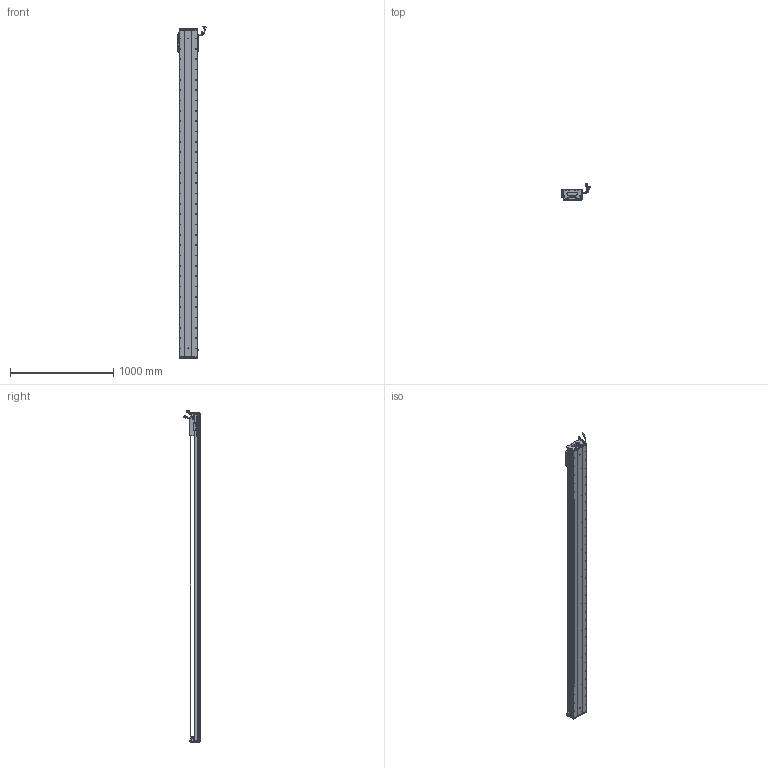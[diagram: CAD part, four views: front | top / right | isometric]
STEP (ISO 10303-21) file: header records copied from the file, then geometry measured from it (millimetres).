
FILE_DESCRIPTION (( 'STEP AP203' ), '1' );
FILE_NAME ('Z2-RY170D-1-L500-B-K.SLDASM_2900.step', '2021-05-17T09:13:09', ( '盈信电脑' ), ( '东莞市道滘镇水果街19号' ), 'SwSTEP 2.0', 'SolidWorks 2016', '' );
FILE_SCHEMA (( 'CONFIG_CONTROL_DESIGN' ));
Length unit declared in the file: millimetre
Products named in the file (36): SCREW-M1.6-1; HARNESS-Part-2; SEAL; SHIELDPLATE; 榋妏寠巭燃_暯_M2_2; 170-Z-臏賑輸盄裔(21遴); SCREW-M1.6-3; Z-RY170詩湍奻揤裔; LABEL; SCREW-M1.6; SCREW-M1.7-1; SCALE-Part-2; 080黍杅芛假蚾釱21遴; HARNESS-Part-1; RY170直线电机感应器672光电感应片; SCREW-M1.6-2; 140蚥薯蝶輸; SEAL-Part-1; HOLDER0; Z2-RY170D-1-L500-B-K.SLDASM_2900; SCALE-Part-1; Z-RY170詩湍狟揤裔; Z2-RY170臏賑輸(21遴); Z2-RY170-L500耀郪菁釱_2900; PSLH080_PSLF2; PBU_SHEET; Z-170詩湍傷裔啣; COVER; COVER-Part-1; Z2-RY170-L500詩湍145mm遵_2900; SCALE; SCREW-M1.7; 覜茼ん672; HARNESS; LABEL-Part-1; 140雄赽晤鎢ん堤盄
Assembly tree (41 placements, depth 4):
  Z2-RY170D-1-L500-B-K.SLDASM_2900
    Z2-RY170-L500耀郪菁釱_2900
    RY170直线电机感应器672光电感应片
    Z2-RY170臏賑輸(21遴)
    覜茼ん672  x3
    PSLH080_PSLF2
      SCALE
        SCALE-Part-1
        SCALE-Part-2
      HARNESS
        HARNESS-Part-1
        HARNESS-Part-2
      LABEL
        LABEL-Part-1
      COVER
        COVER-Part-1
      SEAL
        SEAL-Part-1
      榋妏寠巭燃_暯_M2_2
      SHIELDPLATE
      SCREW-M1.7
      SCREW-M1.7-1
      PBU_SHEET
      SCREW-M1.6
      SCREW-M1.6-1
      SCREW-M1.6-2
      SCREW-M1.6-3
      HOLDER0
    080黍杅芛假蚾釱21遴
    Z2-RY170-L500詩湍145mm遵_2900
    Z-170詩湍傷裔啣  x2
    Z-RY170詩湍奻揤裔  x2
    Z-RY170詩湍狟揤裔  x2
    140蚥薯蝶輸  x2
    170-Z-臏賑輸盄裔(21遴)
    140雄赽晤鎢ん堤盄
Bounding box: 275.29 x 158.11 x 3213.72 mm (x, y, z)
Volume: 15416589.7 mm3; surface area: 3831802.7 mm2
Topology: 36 solids, 36 shells, 4432 faces, 12403 edges, 7733 vertices
Faces by surface type: cylinder 2290, plane 1368, cone 652, torus 69, bspline 53
Entity records: 142127 total; most frequent: CARTESIAN_POINT 40670, ORIENTED_EDGE 21106, DIRECTION 19393, EDGE_CURVE 10553, AXIS2_PLACEMENT_3D 7162, VERTEX_POINT 6851, LINE 5069, VECTOR 5069
